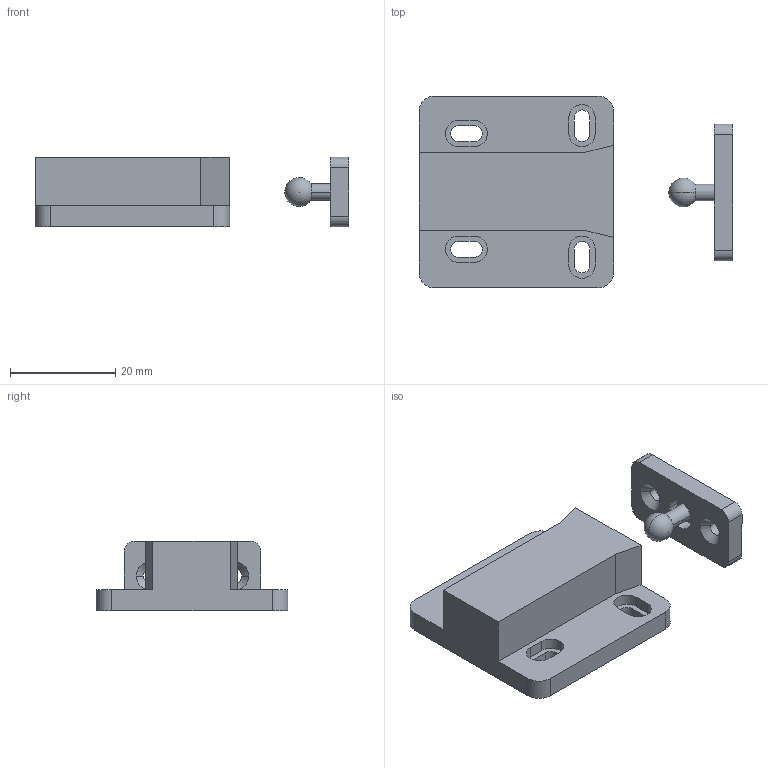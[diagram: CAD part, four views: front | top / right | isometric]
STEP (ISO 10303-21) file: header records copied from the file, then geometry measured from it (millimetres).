
FILE_DESCRIPTION (( 'STEP AP203' ), '1' );
FILE_NAME ('EL-903.STEP', '2013-06-17T05:13:25', ( 'SDS' ), ( 'SDS' ), 'SwSTEP 2.0', 'SolidWorks 2002296', '' );
FILE_SCHEMA (( 'CONFIG_CONTROL_DESIGN' ));
Length unit declared in the file: millimetre
Products named in the file (6): EL-903; EL-903-1_蹬怮椔; EL-903-2_蹬怮椔; EL-903-3_蹬怮椔; EL-903-4_蹬怮椔; EL-903-5_蹬怮椔
Assembly tree (7 placements, depth 2):
  EL-903
    EL-903-1_蹬怮椔
    EL-903-2_蹬怮椔  x2
    EL-903-4_蹬怮椔  x2
    EL-903-3_蹬怮椔
    EL-903-5_蹬怮椔
Bounding box: 59.7 x 36.5 x 13.2 mm (x, y, z)
Volume: 10420.4 mm3; surface area: 7552.3 mm2
Topology: 7 solids, 7 shells, 140 faces, 359 edges, 238 vertices
Faces by surface type: plane 68, cylinder 62, cone 6, sphere 4
Entity records: 4277 total; most frequent: DIRECTION 665, CARTESIAN_POINT 617, ORIENTED_EDGE 588, EDGE_CURVE 294, AXIS2_PLACEMENT_3D 243, VERTEX_POINT 195, LINE 179, VECTOR 179
